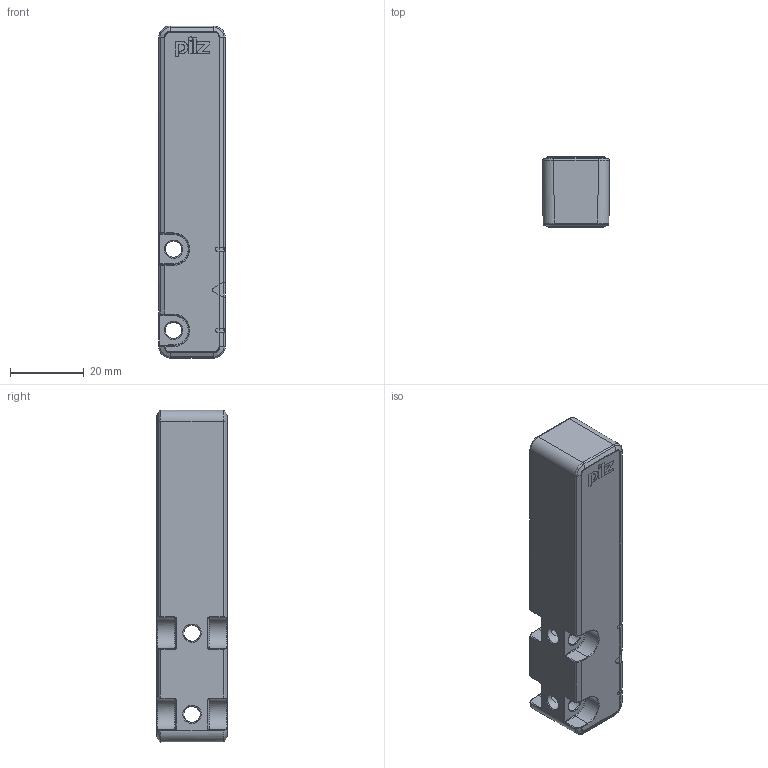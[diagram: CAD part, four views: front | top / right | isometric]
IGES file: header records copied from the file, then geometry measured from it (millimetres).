
Global section: file name: No Iges File Name specified; native system: Autodesk Inventor 2013; preprocessor: AutoDesk Inventor Iges Exporter R2013; author: aschlecht; date: 20140724.131300; units: millimetre
Bounding box: 17.99 x 19.04 x 89.99 mm (x, y, z)
Volume: 27930.1 mm3; surface area: 7779 mm2
Topology: 1 solids, 1 shells, 419 faces, 1067 edges, 658 vertices
Faces by surface type: bspline 419
